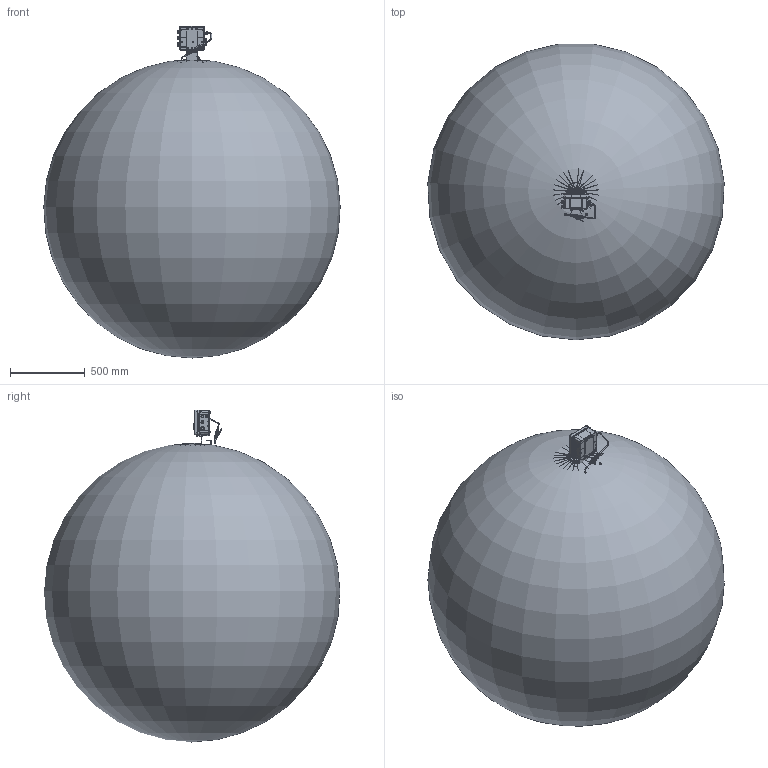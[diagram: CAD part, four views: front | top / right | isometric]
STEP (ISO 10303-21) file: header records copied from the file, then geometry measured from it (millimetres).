
FILE_DESCRIPTION(('STEP AP242'), '1');
FILE_NAME('ÑÃ-ÝÊÐ-Ð-100 ÐÂÃ-Á ïðàâûé', '', ('UNSPECIFIED'), ('UNSPECIFIED'), 'C3D Converter', 'C3D Toolkit', '');
FILE_SCHEMA(('AP242_MANAGED_MODEL_BASED_3D_ENGINEERING_MIM_LF { 1 0 10303 442 1 1 4 }'));
Length unit declared in the file: millimetre
Bounding box: 1985.41 x 1982.05 x 2224.17 mm (x, y, z)
Volume: 4137892470.2 mm3; surface area: 13474787.1 mm2
Topology: 83 solids, 84 shells, 5064 faces, 13003 edges, 8342 vertices
Faces by surface type: plane 1599, cylinder 1279, extrusion 1105, cone 532, bspline 346, torus 163, sphere 40
Full cylindrical faces by diameter (mm): 2 x29, 2.459 x4, 2.5 x8, 3 x5, 3.2 x3, 3.242 x9, 3.459 x2, 3.9 x4, 4 x25, 4.134 x9, 4.3 x2, 4.5 x1, 4.917 x15, 5 x15, 5.5 x3, 6 x30, 6.3 x6, 7 x8, 8 x7, 8.1 x1, 8.5 x1, 8.917 x10, 9.264 x4, 10 x24, 10.106 x8, 10.598 x2, 10.8 x1, 10.846 x1, 11 x5, 12 x9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
Entity records: 292550 total; most frequent: CARTESIAN_POINT 139456, ORIENTED_EDGE 24394, DIRECTION 18838, EDGE_CURVE 12198, VERTEX_POINT 8295, AXIS2_PLACEMENT_3D 6388, EDGE_LOOP 6281, VECTOR 6062
